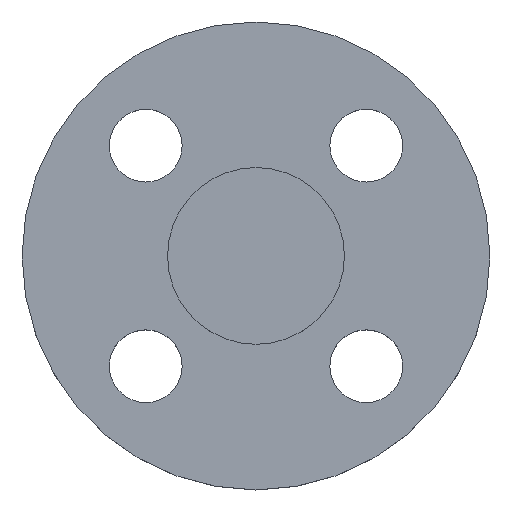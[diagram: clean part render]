
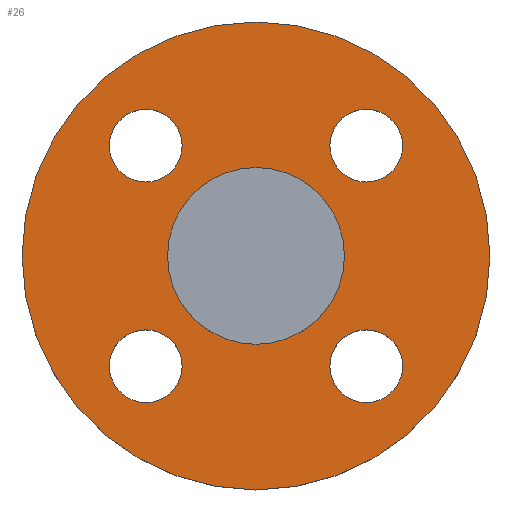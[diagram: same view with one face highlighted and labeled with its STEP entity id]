
A CAD part, top view. The second image highlights one B-rep face of the part: STEP entity #26.
In plain terms, the highlighted planar face has unit normal (0, 0, 1).
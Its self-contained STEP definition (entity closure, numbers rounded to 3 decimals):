
#4 = AXIS2_PLACEMENT_3D ( 'NONE', #91, #90, #89 ) ;
#5 = EDGE_CURVE ( 'NONE', #618, #603, #630, .T. ) ;
#14 = EDGE_CURVE ( 'NONE', #514, #427, #434, .T. ) ;
#16 = CIRCLE ( 'NONE', #183, 17. ) ;
#19 = EDGE_CURVE ( 'NONE', #600, #422, #16, .T. ) ;
#20 = AXIS2_PLACEMENT_3D ( 'NONE', #668, #669, #670 ) ;
#21 = CIRCLE ( 'NONE', #22, 7. ) ;
#22 = AXIS2_PLACEMENT_3D ( 'NONE', #671, #672, #673 ) ;
#26 = ADVANCED_FACE ( 'NONE', ( #659, #661, #662, #664, #665, #666 ), #667, .T. ) ;
#27 = CIRCLE ( 'NONE', #28, 17. ) ;
#28 = AXIS2_PLACEMENT_3D ( 'NONE', #689, #690, #691 ) ;
#33 = EDGE_CURVE ( 'NONE', #540, #442, #21, .T. ) ;
#52 = CIRCLE ( 'NONE', #53, 7. ) ;
#53 = AXIS2_PLACEMENT_3D ( 'NONE', #732, #733, #734 ) ;
#62 = EDGE_CURVE ( 'NONE', #422, #600, #27, .T. ) ;
#87 = CIRCLE ( 'NONE', #100, 45. ) ;
#89 = DIRECTION ( 'NONE',  ( 1., 0., 0. ) ) ;
#90 = DIRECTION ( 'NONE',  ( 0., 0., -1. ) ) ;
#91 = CARTESIAN_POINT ( 'NONE',  ( -21.213, -21.213, -4.5 ) ) ;
#95 = EDGE_CURVE ( 'NONE', #622, #441, #278, .T. ) ;
#100 = AXIS2_PLACEMENT_3D ( 'NONE', #211, #212, #214 ) ;
#143 = CARTESIAN_POINT ( 'NONE',  ( 14.213, 21.213, -4.5 ) ) ;
#149 = DIRECTION ( 'NONE',  ( 0., 0., -1. ) ) ;
#151 = CARTESIAN_POINT ( 'NONE',  ( 14.213, -21.213, -4.5 ) ) ;
#162 = EDGE_CURVE ( 'NONE', #427, #514, #52, .T. ) ;
#183 = AXIS2_PLACEMENT_3D ( 'NONE', #652, #653, #654 ) ;
#189 = CARTESIAN_POINT ( 'NONE',  ( 28.213, -21.213, -4.5 ) ) ;
#192 = CARTESIAN_POINT ( 'NONE',  ( -14.213, 21.213, -4.5 ) ) ;
#193 = CARTESIAN_POINT ( 'NONE',  ( 21.213, 21.213, -4.5 ) ) ;
#196 = CARTESIAN_POINT ( 'NONE',  ( -45., 0., -4.5 ) ) ;
#198 = CARTESIAN_POINT ( 'NONE',  ( -14.213, -21.213, -4.5 ) ) ;
#210 = EDGE_CURVE ( 'NONE', #603, #618, #87, .T. ) ;
#211 = CARTESIAN_POINT ( 'NONE',  ( 0., 0., -4.5 ) ) ;
#212 = DIRECTION ( 'NONE',  ( 0., 0., -1. ) ) ;
#214 = DIRECTION ( 'NONE',  ( -1., 0., 0. ) ) ;
#249 = AXIS2_PLACEMENT_3D ( 'NONE', #704, #705, #706 ) ;
#253 = CARTESIAN_POINT ( 'NONE',  ( -21.213, -21.213, -4.5 ) ) ;
#254 = DIRECTION ( 'NONE',  ( 0., 0., -1. ) ) ;
#260 = DIRECTION ( 'NONE',  ( 1., 0., 0. ) ) ;
#262 = DIRECTION ( 'NONE',  ( 1., 0., 0. ) ) ;
#278 = CIRCLE ( 'NONE', #249, 7. ) ;
#282 = CARTESIAN_POINT ( 'NONE',  ( -28.213, -21.213, -4.5 ) ) ;
#292 = CARTESIAN_POINT ( 'NONE',  ( 21.213, -21.213, -4.5 ) ) ;
#295 = EDGE_CURVE ( 'NONE', #595, #619, #469, .T. ) ;
#296 = DIRECTION ( 'NONE',  ( 0., 0., -1. ) ) ;
#297 = CIRCLE ( 'NONE', #314, 7. ) ;
#298 = DIRECTION ( 'NONE',  ( 1., 0., 0. ) ) ;
#301 = ORIENTED_EDGE ( 'NONE', *, *, #95, .T. ) ;
#302 = ORIENTED_EDGE ( 'NONE', *, *, #162, .T. ) ;
#303 = ORIENTED_EDGE ( 'NONE', *, *, #14, .T. ) ;
#314 = AXIS2_PLACEMENT_3D ( 'NONE', #292, #296, #298 ) ;
#321 = EDGE_CURVE ( 'NONE', #442, #540, #297, .T. ) ;
#322 = ORIENTED_EDGE ( 'NONE', *, *, #33, .T. ) ;
#334 = CARTESIAN_POINT ( 'NONE',  ( 45., 0., -4.5 ) ) ;
#367 = CARTESIAN_POINT ( 'NONE',  ( 17., 0., -4.5 ) ) ;
#381 = CARTESIAN_POINT ( 'NONE',  ( -28.213, 21.213, -4.5 ) ) ;
#389 = CARTESIAN_POINT ( 'NONE',  ( -17., 0., -4.5 ) ) ;
#391 = CIRCLE ( 'NONE', #399, 7. ) ;
#399 = AXIS2_PLACEMENT_3D ( 'NONE', #193, #149, #262 ) ;
#408 = EDGE_LOOP ( 'NONE', ( #526, #527 ) ) ;
#410 = EDGE_LOOP ( 'NONE', ( #523, #524 ) ) ;
#415 = EDGE_LOOP ( 'NONE', ( #519, #322 ) ) ;
#422 = VERTEX_POINT ( 'NONE', #367 ) ;
#427 = VERTEX_POINT ( 'NONE', #381 ) ;
#434 = CIRCLE ( 'NONE', #450, 7. ) ;
#441 = VERTEX_POINT ( 'NONE', #143 ) ;
#442 = VERTEX_POINT ( 'NONE', #189 ) ;
#450 = AXIS2_PLACEMENT_3D ( 'NONE', #643, #644, #646 ) ;
#454 = AXIS2_PLACEMENT_3D ( 'NONE', #253, #254, #260 ) ;
#461 = EDGE_LOOP ( 'NONE', ( #301, #522 ) ) ;
#469 = CIRCLE ( 'NONE', #454, 7. ) ;
#503 = CARTESIAN_POINT ( 'NONE',  ( 28.213, 21.213, -4.5 ) ) ;
#514 = VERTEX_POINT ( 'NONE', #192 ) ;
#519 = ORIENTED_EDGE ( 'NONE', *, *, #321, .T. ) ;
#520 = ORIENTED_EDGE ( 'NONE', *, *, #295, .T. ) ;
#521 = ORIENTED_EDGE ( 'NONE', *, *, #714, .T. ) ;
#522 = ORIENTED_EDGE ( 'NONE', *, *, #530, .T. ) ;
#523 = ORIENTED_EDGE ( 'NONE', *, *, #19, .T. ) ;
#524 = ORIENTED_EDGE ( 'NONE', *, *, #62, .T. ) ;
#526 = ORIENTED_EDGE ( 'NONE', *, *, #210, .F. ) ;
#527 = ORIENTED_EDGE ( 'NONE', *, *, #5, .F. ) ;
#530 = EDGE_CURVE ( 'NONE', #441, #622, #391, .T. ) ;
#540 = VERTEX_POINT ( 'NONE', #151 ) ;
#567 = CIRCLE ( 'NONE', #4, 7. ) ;
#577 = EDGE_LOOP ( 'NONE', ( #520, #521 ) ) ;
#595 = VERTEX_POINT ( 'NONE', #198 ) ;
#599 = EDGE_LOOP ( 'NONE', ( #303, #302 ) ) ;
#600 = VERTEX_POINT ( 'NONE', #389 ) ;
#603 = VERTEX_POINT ( 'NONE', #334 ) ;
#618 = VERTEX_POINT ( 'NONE', #196 ) ;
#619 = VERTEX_POINT ( 'NONE', #282 ) ;
#622 = VERTEX_POINT ( 'NONE', #503 ) ;
#623 = CARTESIAN_POINT ( 'NONE',  ( 0., 0., -4.5 ) ) ;
#624 = DIRECTION ( 'NONE',  ( 0., 0., -1. ) ) ;
#625 = DIRECTION ( 'NONE',  ( -1., 0., 0. ) ) ;
#627 = AXIS2_PLACEMENT_3D ( 'NONE', #623, #624, #625 ) ;
#630 = CIRCLE ( 'NONE', #627, 45. ) ;
#643 = CARTESIAN_POINT ( 'NONE',  ( -21.213, 21.213, -4.5 ) ) ;
#644 = DIRECTION ( 'NONE',  ( 0., 0., -1. ) ) ;
#646 = DIRECTION ( 'NONE',  ( 1., 0., 0. ) ) ;
#652 = CARTESIAN_POINT ( 'NONE',  ( 0., 0., -4.5 ) ) ;
#653 = DIRECTION ( 'NONE',  ( 0., 0., -1. ) ) ;
#654 = DIRECTION ( 'NONE',  ( -1., 0., 0. ) ) ;
#659 = FACE_BOUND ( 'NONE', #415, .T. ) ;
#661 = FACE_BOUND ( 'NONE', #577, .T. ) ;
#662 = FACE_BOUND ( 'NONE', #599, .T. ) ;
#664 = FACE_BOUND ( 'NONE', #461, .T. ) ;
#665 = FACE_BOUND ( 'NONE', #410, .T. ) ;
#666 = FACE_OUTER_BOUND ( 'NONE', #408, .T. ) ;
#667 = PLANE ( 'NONE',  #20 ) ;
#668 = CARTESIAN_POINT ( 'NONE',  ( 17., 0., -4.5 ) ) ;
#669 = DIRECTION ( 'NONE',  ( 0., 0., 1. ) ) ;
#670 = DIRECTION ( 'NONE',  ( 1., 0., 0. ) ) ;
#671 = CARTESIAN_POINT ( 'NONE',  ( 21.213, -21.213, -4.5 ) ) ;
#672 = DIRECTION ( 'NONE',  ( 0., 0., -1. ) ) ;
#673 = DIRECTION ( 'NONE',  ( 1., 0., 0. ) ) ;
#689 = CARTESIAN_POINT ( 'NONE',  ( 0., 0., -4.5 ) ) ;
#690 = DIRECTION ( 'NONE',  ( 0., 0., -1. ) ) ;
#691 = DIRECTION ( 'NONE',  ( -1., 0., 0. ) ) ;
#704 = CARTESIAN_POINT ( 'NONE',  ( 21.213, 21.213, -4.5 ) ) ;
#705 = DIRECTION ( 'NONE',  ( 0., 0., -1. ) ) ;
#706 = DIRECTION ( 'NONE',  ( 1., 0., 0. ) ) ;
#714 = EDGE_CURVE ( 'NONE', #619, #595, #567, .T. ) ;
#732 = CARTESIAN_POINT ( 'NONE',  ( -21.213, 21.213, -4.5 ) ) ;
#733 = DIRECTION ( 'NONE',  ( 0., 0., -1. ) ) ;
#734 = DIRECTION ( 'NONE',  ( 1., 0., 0. ) ) ;
